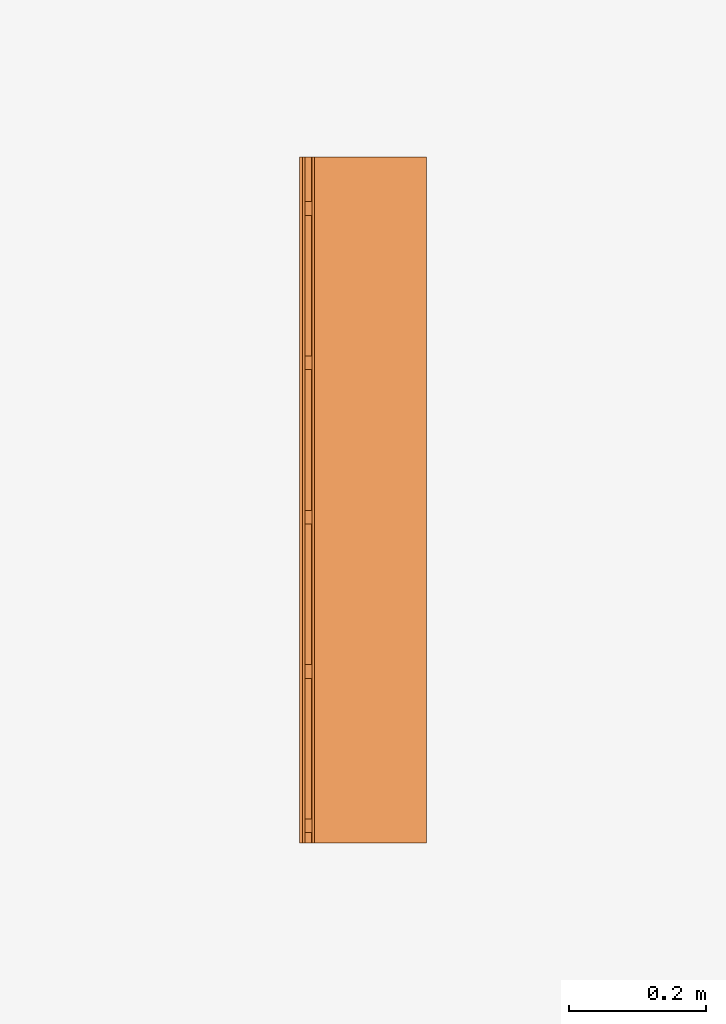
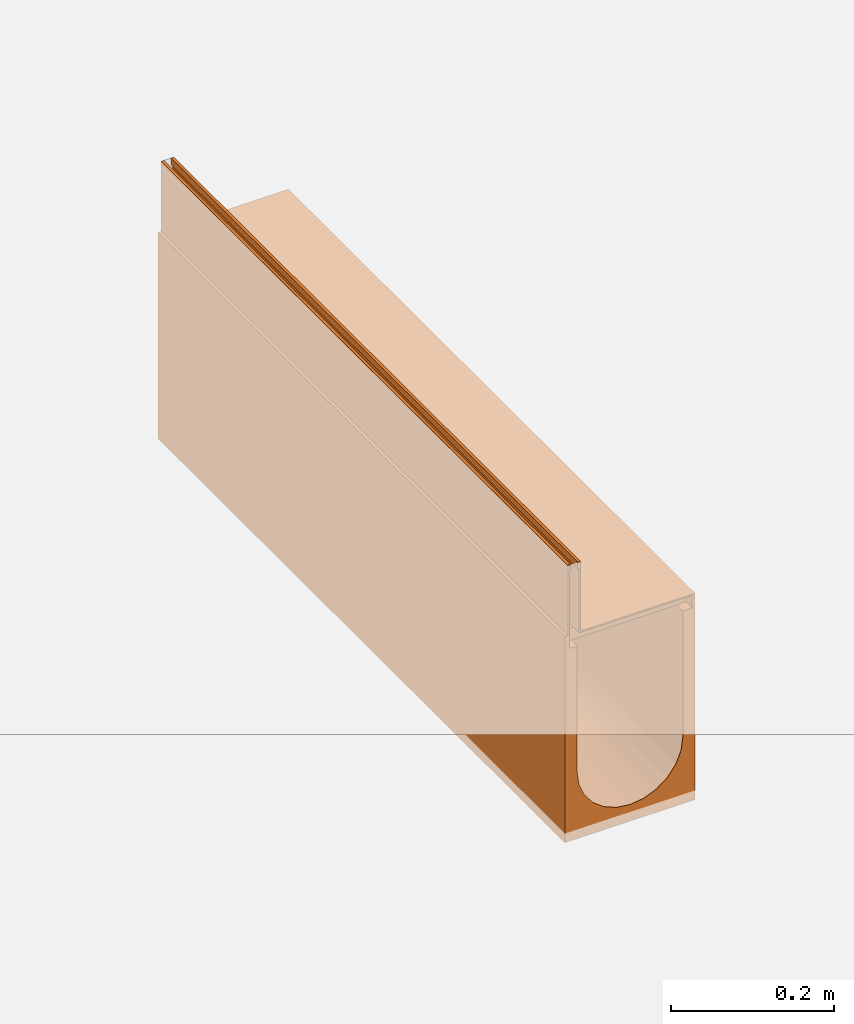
# One storey, part 2 of 2: 1 proxy.
"""IFC2X3 building model written with IfcOpenShell, lengths in millimetres."""

from ifc_helpers import new_model, entity, si_unit, converted_unit, direction, frame, origin, place, context, subcontext, project, spatial, faceted_brep, source, transform, mapped, material, material_list, element, save


model = new_model("IFC2X3")

# Units and contexts
model_context = context("Model", 3, precision=1e-06, world=origin(), true_north=direction((2.0, 6.12303176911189e-17, 1.0)))
context_of_model = context(None, 3, precision=1e-06, world=origin(), true_north=direction((2.0, 6.12303176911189e-17, 1.0)))
body_context = subcontext(model_context, "Body", "Model", "MODEL_VIEW")
ifc_project = project(units=[si_unit("LENGTHUNIT", "METRE", prefix="MILLI"), si_unit("AREAUNIT", "SQUARE_METRE", prefix="MILLI"), si_unit("VOLUMEUNIT", "CUBIC_METRE", prefix="MILLI"), converted_unit("PLANEANGLEUNIT", "DEGREE", entity("IfcRatioMeasure", 0.0174532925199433), si_unit("PLANEANGLEUNIT", "RADIAN"), dimensions=[0, 0, 0, 0, 0, 0, 0]), si_unit("TIMEUNIT", "SECOND")], contexts=[model_context, context_of_model])

# Site, building, storey
site_placement = place(None, origin())
site = spatial("IfcSite", under=ifc_project, at=site_placement, Name="Default", CompositionType="ELEMENT")
building_placement = place(site_placement, origin())
building = spatial("IfcBuilding", under=site, at=building_placement, CompositionType="ELEMENT")
storey_placement = place(building_placement, origin())
storey = spatial("IfcBuildingStorey", under=building, at=storey_placement, Name="Level 1", CompositionType="ELEMENT", Elevation=0.0)

# Proxy
ifc_material_1 = material(Name="Steel, Galvanized")
ifc_material_2 = material(Name="Vienite® Synthetic Resin Concrete")
ifc_material_list = material_list([ifc_material_1, ifc_material_2])
shared_shape = source(origin(), body_context, "Body", "Brep", [
    faceted_brep([(88.2500000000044, 465.0, -107.0), (88.2500000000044, 467.0, -109.0), (88.2500000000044, 483.0, -109.0), (88.2500000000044, 485.0, -107.0), (88.2500000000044, 467.0, -123.499999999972), (88.2500000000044, 465.0, -125.499999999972), (88.2500000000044, 483.0, -123.499999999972), (88.2500000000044, 485.0, -125.499999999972), (-86.2499999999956, 465.0, -125.499999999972), (-86.2499999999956, 467.0, -123.499999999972), (-86.2499999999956, 483.0, -123.499999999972), (-86.2499999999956, 485.0, -125.499999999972), (-86.2499999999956, 467.0, -109.0), (-86.2499999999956, 465.0, -107.0), (-86.2499999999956, 483.0, -109.0), (-86.2499999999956, 485.0, -107.0)], [[[0, 1, 2, 3]], [[4, 1, 0, 5]], [[3, 2, 6, 7]], [[6, 4, 5, 7]], [[8, 9, 10, 11]], [[12, 9, 8, 13]], [[11, 10, 14, 15]], [[14, 12, 13, 15]], [[5, 0, 13, 8]], [[7, 5, 8, 11]], [[3, 7, 11, 15]], [[0, 3, 15, 13]], [[1, 4, 9, 12]], [[14, 2, 1, 12]], [[6, 2, 14, 10]], [[9, 4, 6, 10]]]),
    faceted_brep([(88.2500000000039, 240.0, -107.0), (88.2500000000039, 242.0, -109.0), (88.2500000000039, 258.0, -109.0), (88.2500000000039, 260.0, -107.0), (88.2500000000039, 242.0, -123.499999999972), (88.2500000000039, 240.0, -125.499999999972), (88.2500000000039, 258.0, -123.499999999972), (88.2500000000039, 260.0, -125.499999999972), (-86.2499999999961, 240.0, -125.499999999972), (-86.2499999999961, 242.0, -123.499999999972), (-86.2499999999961, 258.0, -123.499999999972), (-86.2499999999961, 260.0, -125.499999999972), (-86.2499999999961, 242.0, -109.0), (-86.2499999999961, 240.0, -107.0), (-86.2499999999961, 258.0, -109.0), (-86.2499999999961, 260.0, -107.0)], [[[0, 1, 2, 3]], [[4, 1, 0, 5]], [[3, 2, 6, 7]], [[6, 4, 5, 7]], [[8, 9, 10, 11]], [[12, 9, 8, 13]], [[11, 10, 14, 15]], [[14, 12, 13, 15]], [[5, 0, 13, 8]], [[7, 5, 8, 11]], [[15, 3, 7, 11]], [[0, 3, 15, 13]], [[1, 4, 9, 12]], [[14, 2, 1, 12]], [[6, 2, 14, 10]], [[9, 4, 6, 10]]]),
    faceted_brep([(88.2500000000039, 15.0, -107.0), (88.2500000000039, 17.0, -109.0), (88.2500000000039, 33.0, -109.0), (88.2500000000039, 35.0, -107.0), (88.2500000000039, 17.0, -123.499999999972), (88.2500000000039, 15.0, -125.499999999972), (88.2500000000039, 33.0, -123.499999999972), (88.2500000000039, 35.0, -125.499999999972), (-86.2499999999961, 15.0, -125.499999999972), (-86.2499999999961, 17.0, -123.499999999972), (-86.2499999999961, 33.0, -123.499999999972), (-86.2499999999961, 35.0, -125.499999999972), (-86.2499999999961, 17.0, -109.0), (-86.2499999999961, 15.0, -107.0), (-86.2499999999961, 33.0, -109.0), (-86.2499999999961, 35.0, -107.0)], [[[0, 1, 2, 3]], [[4, 1, 0, 5]], [[3, 2, 6, 7]], [[6, 4, 5, 7]], [[8, 9, 10, 11]], [[12, 9, 8, 13]], [[11, 10, 14, 15]], [[14, 12, 13, 15]], [[5, 0, 13, 8]], [[7, 5, 8, 11]], [[3, 7, 11, 15]], [[0, 3, 15, 13]], [[12, 1, 4, 9]], [[14, 2, 1, 12]], [[10, 6, 2, 14]], [[9, 4, 6, 10]]]),
    faceted_brep([(88.2500000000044, 915.0, -107.0), (88.2500000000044, 917.0, -109.0), (88.2500000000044, 933.0, -109.0), (88.2500000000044, 935.0, -107.0), (88.2500000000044, 917.0, -123.49999999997), (88.2500000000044, 915.0, -125.49999999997), (88.2500000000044, 933.0, -123.49999999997), (88.2500000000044, 935.0, -125.49999999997), (-86.2499999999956, 915.0, -125.49999999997), (-86.2499999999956, 917.0, -123.49999999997), (-86.2499999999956, 933.0, -123.49999999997), (-86.2499999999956, 935.0, -125.49999999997), (-86.2499999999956, 917.0, -109.0), (-86.2499999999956, 915.0, -107.0), (-86.2499999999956, 933.0, -109.0), (-86.2499999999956, 935.0, -107.0)], [[[0, 1, 2, 3]], [[4, 1, 0, 5]], [[3, 2, 6, 7]], [[6, 4, 5, 7]], [[8, 9, 10, 11]], [[12, 9, 8, 13]], [[11, 10, 14, 15]], [[14, 12, 13, 15]], [[5, 0, 13, 8]], [[7, 5, 8, 11]], [[15, 3, 7, 11]], [[0, 3, 15, 13]], [[1, 4, 9, 12]], [[14, 2, 1, 12]], [[6, 2, 14, 10]], [[9, 4, 6, 10]]]),
    faceted_brep([(88.2500000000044, 690.0, -107.0), (88.2500000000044, 692.0, -109.0), (88.2500000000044, 708.0, -109.0), (88.2500000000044, 710.0, -107.0), (88.2500000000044, 692.0, -123.49999999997), (88.2500000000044, 690.0, -125.49999999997), (88.2500000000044, 708.0, -123.49999999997), (88.2500000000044, 710.0, -125.49999999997), (-86.2499999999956, 690.0, -125.49999999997), (-86.2499999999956, 692.0, -123.49999999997), (-86.2499999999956, 708.0, -123.49999999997), (-86.2499999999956, 710.0, -125.49999999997), (-86.2499999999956, 692.0, -109.0), (-86.2499999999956, 690.0, -107.0), (-86.2499999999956, 708.0, -109.0), (-86.2499999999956, 710.0, -107.0)], [[[0, 1, 2, 3]], [[4, 1, 0, 5]], [[3, 2, 6, 7]], [[6, 4, 5, 7]], [[8, 9, 10, 11]], [[12, 9, 8, 13]], [[11, 10, 14, 15]], [[14, 12, 13, 15]], [[8, 5, 0, 13]], [[7, 5, 8, 11]], [[3, 7, 11, 15]], [[0, 3, 15, 13]], [[12, 1, 4, 9]], [[14, 2, 1, 12]], [[10, 6, 2, 14]], [[9, 4, 6, 10]]]),
    faceted_brep([(-72.2499999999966, 0.0, -10.0), (-72.2499999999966, 0.0, -107.0), (-70.2499999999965, 0.0, -105.0), (-70.2499999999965, 0.0, 0.0), (-74.2499999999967, 0.0, 0.0), (-74.2499999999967, 0.0, -10.0), (88.2500000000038, 0.0, -107.0), (88.2500000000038, 0.0, -105.0), (-70.2499999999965, 1000.0, -105.0), (88.2500000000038, 1000.0, -105.0), (88.2500000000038, 1000.0, -107.0), (-72.2499999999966, 1000.0, -107.0), (-72.2499999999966, 1000.0, -10.0), (-70.2499999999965, 1000.0, 0.0), (-74.2499999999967, 1000.0, -10.0), (-74.2499999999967, 1000.0, 0.0)], [[[0, 1, 2, 3]], [[4, 5, 0, 3]], [[6, 7, 2, 1]], [[8, 9, 10, 11]], [[12, 13, 8, 11]], [[12, 14, 15, 13]], [[0, 5, 14, 12]], [[11, 1, 0, 12]], [[6, 1, 11, 10]], [[8, 2, 7, 9]], [[3, 2, 8, 13]], [[15, 4, 3, 13]], [[5, 4, 15, 14]], [[9, 7, 6, 10]]]),
    faceted_brep([(-84.2499999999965, 1000.0, 0.0), (-84.2499999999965, 1000.0, -10.0), (-86.2499999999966, 1000.0, -10.0), (-88.2499999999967, 1000.0, 0.0), (-88.2499999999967, 1000.0, -125.499999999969), (-86.2499999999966, 1000.0, -125.499999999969), (-86.2499999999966, 0.0, -10.0), (-88.2499999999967, 0.0, 0.0), (-88.2499999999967, 0.0, -125.499999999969), (-86.2499999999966, 0.0, -125.499999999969), (-84.2499999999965, 0.0, 0.0), (-84.2499999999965, 0.0, -10.0)], [[[0, 1, 2, 3]], [[4, 3, 2, 5]], [[6, 7, 8, 9]], [[10, 7, 6, 11]], [[9, 8, 4, 5]], [[6, 9, 5, 2]], [[11, 6, 2, 1]], [[10, 11, 1, 0]], [[3, 7, 10, 0]], [[4, 8, 7, 3]]]),
    faceted_brep([(88.2499999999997, 1000.0, -125.500000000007), (88.2499999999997, 1000.0, -105.0), (92.5000000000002, 1000.0, -105.0), (92.5000000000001, 1000.0, -415.0), (75.0, 1000.0, -315.0), (75.0, 1000.0, -125.500000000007), (-92.5, 1000.0, -105.0), (-88.2499999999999, 1000.0, -105.0), (-88.2499999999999, 1000.0, -125.500000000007), (-92.5, 1000.0, -415.0), (-75.0, 1000.0, -125.500000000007), (-75.0, 1000.0, -315.0), (72.44443697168, 1000.0, -334.411428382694), (53.033008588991, 1000.0, -368.033008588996), (64.9519052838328, 1000.0, -352.500000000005), (37.5, 1000.0, -379.951905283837), (0.0, 1000.0, -390.0), (19.4114283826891, 1000.0, -387.444436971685), (-64.9519052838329, 1000.0, -352.500000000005), (-53.033008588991, 1000.0, -368.033008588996), (-72.4444369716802, 1000.0, -334.411428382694), (-37.4999999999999, 1000.0, -379.951905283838), (-19.4114283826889, 1000.0, -387.444436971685), (92.5000000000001, 0.0, -415.0), (19.4114283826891, 0.0, -387.444436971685), (0.0, 0.0, -390.0), (37.5, 0.0, -379.951905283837), (53.033008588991, 0.0, -368.033008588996), (64.9519052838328, 0.0, -352.500000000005), (72.44443697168, 0.0, -334.411428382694), (-19.4114283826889, 0.0, -387.444436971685), (-92.5, 0.0, -415.0), (-37.4999999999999, 0.0, -379.951905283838), (-53.033008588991, 0.0, -368.033008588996), (-64.9519052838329, 0.0, -352.500000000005), (-72.4444369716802, 0.0, -334.411428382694), (75.0, 0.0, -315.0), (88.2499999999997, 0.0, -125.500000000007), (75.0, 0.0, -125.500000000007), (92.5000000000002, 0.0, -105.0), (88.2499999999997, 0.0, -105.0), (-75.0, 0.0, -315.0), (-75.0, 0.0, -125.500000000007), (-88.2499999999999, 0.0, -125.500000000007), (-88.2499999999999, 0.0, -105.0), (-92.5, 0.0, -105.0), (-20.7055236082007, 47.7259338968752, -415.0), (0.0, 45.0, -415.0), (-40.0, 55.7179676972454, -415.0), (-77.2740661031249, 104.294476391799, -415.0), (-69.2820323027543, 85.0, -415.0), (-56.568542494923, 68.4314575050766, -415.0), (-80.0, 125.0, -415.0), (20.7055236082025, 47.7259338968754, -415.0), (40.0, 55.7179676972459, -415.0), (56.5685424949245, 68.4314575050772, -415.0), (69.2820323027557, 85.0, -415.0), (77.274066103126, 104.294476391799, -415.0), (80.0, 125.0, -415.0), (-77.2740661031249, 145.705523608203, -415.0), (-69.2820323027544, 165.0, -415.0), (-56.568542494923, 181.568542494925, -415.0), (-40.0, 194.282032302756, -415.0), (-20.7055236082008, 202.274066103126, -415.0), (0.0, 205.0, -415.0), (69.2820323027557, 165.0, -415.0), (56.5685424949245, 181.568542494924, -415.0), (77.274066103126, 145.705523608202, -415.0), (20.7055236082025, 202.274066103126, -415.0), (40.0, 194.282032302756, -415.0), (75.0, 500.0, -315.0), (-75.0, 500.0, -315.0), (59.5015003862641, 412.754760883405, -360.657107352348), (28.7012574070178, 587.245238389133, -384.290964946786), (9.78946440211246, 500.0, -389.358364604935), (69.2909647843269, 499.999994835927, -343.701257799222), (73.5588959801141, 358.503168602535, -329.631774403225), (45.6571070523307, 500.0, -374.501500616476), (74.0403241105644, 701.518493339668, -326.959531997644), (-45.6571071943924, 412.754763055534, -374.501500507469), (-73.558896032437, 641.496824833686, -329.631774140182), (-28.7012574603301, 500.0, -384.290964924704), (-9.78946442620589, 587.245236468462, -389.358364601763), (-59.5015005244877, 587.24523647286, -360.657107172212), (-74.0403241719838, 298.481491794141, -326.959531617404), (-69.2909649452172, 500.0, -343.701257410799), (-56.568542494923, 181.568542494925, -405.0), (-40.0, 194.282032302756, -405.0), (-20.7055236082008, 202.274066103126, -405.0), (40.0, 194.282032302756, -405.0), (-80.0, 125.0, -405.0), (-77.2740661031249, 145.705523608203, -405.0), (-69.2820323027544, 165.0, -405.0), (77.274066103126, 145.705523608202, -405.0), (0.0, 205.0, -405.0), (20.7055236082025, 202.274066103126, -405.0), (56.5685424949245, 181.568542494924, -405.0), (69.2820323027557, 165.0, -405.0), (-77.274066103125, 104.294476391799, -405.0), (80.0, 125.0, -405.0), (-56.5685424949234, 68.431457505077, -405.0), (-69.2820323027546, 85.0, -405.0), (-40.0, 55.7179676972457, -405.0), (0.0, 45.0, -405.0), (-20.7055236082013, 47.7259338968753, -405.0), (40.0, 55.7179676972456, -405.0), (77.2740661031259, 104.294476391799, -405.0), (69.2820323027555, 85.0, -405.0), (56.5685424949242, 68.4314575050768, -405.0), (20.705523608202, 47.7259338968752, -405.0)], [[[0, 1, 2, 3]], [[4, 5, 0, 3]], [[6, 7, 8, 9]], [[8, 10, 11, 9]], [[4, 3, 12]], [[13, 14, 3]], [[15, 13, 3]], [[16, 17, 3, 9]], [[3, 17, 15]], [[14, 12, 3]], [[18, 19, 9]], [[20, 18, 9]], [[21, 22, 9]], [[9, 22, 16]], [[21, 9, 19]], [[20, 9, 11]], [[23, 24, 25]], [[24, 23, 26]], [[27, 26, 23]], [[28, 27, 23]], [[23, 29, 28]], [[25, 30, 31, 23]], [[31, 30, 32]], [[33, 34, 31]], [[32, 33, 31]], [[31, 34, 35]], [[36, 29, 23]], [[37, 38, 36, 23]], [[39, 40, 37, 23]], [[41, 42, 43, 31]], [[35, 41, 31]], [[43, 44, 45, 31]], [[44, 43, 8, 7]], [[45, 44, 7, 6]], [[31, 45, 6, 9]], [[31, 46, 47, 23]], [[46, 31, 48]], [[49, 50, 31]], [[51, 48, 31]], [[50, 51, 31]], [[31, 52, 49]], [[23, 53, 54]], [[53, 23, 47]], [[23, 54, 55]], [[55, 56, 23]], [[57, 58, 23]], [[56, 57, 23]], [[23, 58, 3]], [[59, 52, 9]], [[60, 59, 9]], [[61, 9, 62]], [[9, 61, 60]], [[63, 62, 9]], [[64, 63, 9, 3]], [[52, 31, 9]], [[65, 66, 3]], [[67, 65, 3]], [[68, 64, 3]], [[69, 3, 66]], [[3, 69, 68]], [[67, 3, 58]], [[2, 39, 23, 3]], [[1, 40, 39, 2]], [[37, 40, 1, 0]], [[5, 38, 37, 0]], [[4, 70, 38, 5]], [[42, 41, 71, 11]], [[11, 10, 42]], [[8, 43, 42, 10]], [[72, 27, 28]], [[73, 74, 24]], [[28, 29, 75]], [[75, 29, 76]], [[26, 27, 77]], [[76, 78, 75]], [[70, 76, 36]], [[75, 72, 28]], [[12, 78, 4]], [[24, 26, 73]], [[14, 75, 12]], [[78, 70, 4]], [[76, 29, 36]], [[15, 17, 73]], [[79, 33, 32]], [[72, 75, 14]], [[20, 11, 80]], [[14, 13, 72]], [[15, 73, 77]], [[21, 81, 22]], [[17, 16, 74]], [[24, 74, 25]], [[82, 81, 30]], [[15, 77, 13]], [[32, 30, 81]], [[83, 79, 19]], [[84, 80, 71]], [[79, 32, 81]], [[35, 34, 85]], [[83, 34, 33]], [[82, 22, 81]], [[85, 34, 83]], [[19, 79, 21]], [[71, 41, 84]], [[30, 25, 82]], [[22, 82, 16]], [[72, 77, 27]], [[82, 74, 16]], [[78, 76, 70]], [[79, 81, 21]], [[73, 17, 74]], [[18, 85, 83]], [[83, 19, 18]], [[77, 73, 26]], [[20, 80, 85]], [[77, 72, 13]], [[74, 82, 25]], [[33, 79, 83]], [[12, 75, 78]], [[20, 85, 18]], [[35, 85, 84]], [[71, 80, 11]], [[80, 84, 85]], [[35, 84, 41]], [[86, 87, 88, 89]], [[86, 90, 91, 92]], [[90, 86, 89, 93]], [[88, 94, 95, 89]], [[89, 96, 97, 93]], [[98, 90, 93, 99]], [[100, 101, 98, 102]], [[103, 104, 102, 105]], [[99, 102, 98]], [[106, 107, 108, 105]], [[99, 106, 105, 102]], [[105, 109, 103]], [[93, 67, 58, 99]], [[97, 65, 67, 93]], [[89, 69, 66, 96]], [[96, 66, 65, 97]], [[95, 68, 69, 89]], [[68, 95, 94, 64]], [[88, 63, 64, 94]], [[87, 62, 63, 88]], [[92, 60, 61, 86]], [[86, 61, 62, 87]], [[91, 59, 60, 92]], [[59, 91, 90, 52]], [[98, 49, 52, 90]], [[101, 50, 49, 98]], [[102, 48, 51, 100]], [[100, 51, 50, 101]], [[104, 46, 48, 102]], [[46, 104, 103, 47]], [[109, 53, 47, 103]], [[105, 54, 53, 109]], [[107, 56, 55, 108]], [[108, 55, 54, 105]], [[106, 57, 56, 107]], [[106, 99, 58, 57]], [[38, 70, 36]]]),
])
proxy_placement = place(storey_placement, frame((0.0, -230.0, 0.0)))
element("IfcBuildingElementProxy", 1, at=proxy_placement, inside=storey, material=ifc_material_list, Name="Civil-Drainage-Channel-ACO-MultiDrain-M150D-Brickslot-Channel-System:23152 - No 20.0 Constant Depth Channel - 1000mm LG - Invert Depth 285mm:23152 - No 20.0 Constant Depth Channel - 1000mm LG - Invert Depth 285mm", ObjectType="23152 - No 20.0 Constant Depth Channel - 1000mm LG - Invert Depth 285mm", CompositionType="ELEMENT", context=body_context, shape_type="MappedRepresentation", body=[
    mapped(shared_shape, transform((0.0, 0.0, 0.0), scale=1.0)),
])

save(model, "model.ifc")
